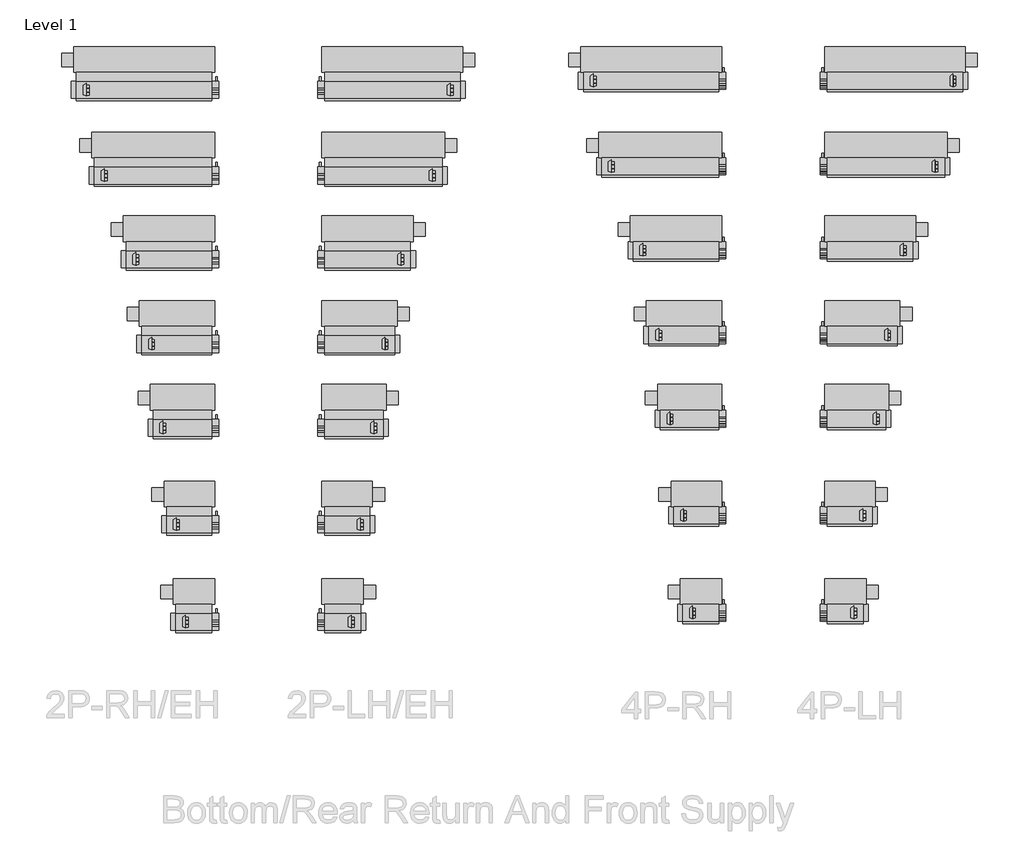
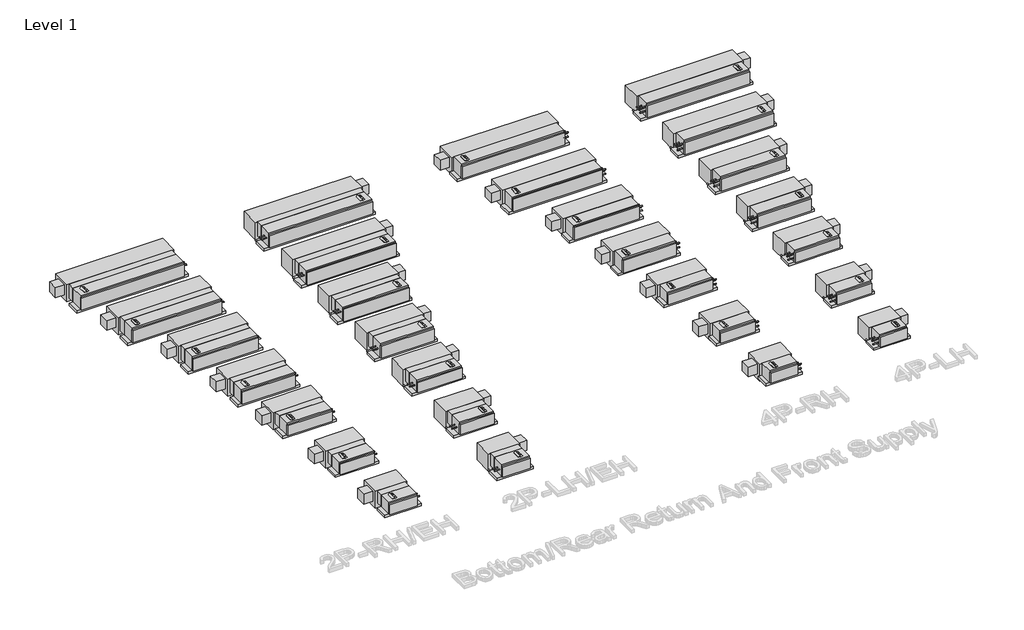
# One storey, part 1 of 3: 28 proxies.
"""IFC4 building model written with IfcOpenShell, lengths in millimetres."""

from ifc_helpers import new_model, si_unit, origin, place, context, project, spatial, transform, mapped, element, save
from components import mechanical_equipment_035db757, mechanical_equipment_09d55095, mechanical_equipment_ec8f8840, mechanical_equipment_d784f6c1, mechanical_equipment_0507619c, mechanical_equipment_2895ad52, mechanical_equipment_3fbe97c3, mechanical_equipment_b84d69dc, mechanical_equipment_30c2de15, mechanical_equipment_384acc31, mechanical_equipment_4620462e, mechanical_equipment_fb6a3015, mechanical_equipment_8496716b, mechanical_equipment_0d2534ca, mechanical_equipment_d7664b9c, mechanical_equipment_180d3f21, mechanical_equipment_aed2d3a6, mechanical_equipment_0631663f, mechanical_equipment_c43f2619, mechanical_equipment_cdbdb4ef, mechanical_equipment_cb384b61, mechanical_equipment_4876a667, mechanical_equipment_45491a60, mechanical_equipment_0cc6892a, mechanical_equipment_71cb244d, mechanical_equipment_a1824d72, mechanical_equipment_d58d46fc, mechanical_equipment_185d564b

model = new_model("IFC4")

# Units and contexts
model_context = context("Model", 3, world=origin())
ifc_project = project(units=[si_unit("LENGTHUNIT", "METRE", prefix="MILLI")], contexts=[model_context])

# Site, building, storey
site = spatial("IfcSite", under=ifc_project)
building = spatial("IfcBuilding", under=site)
storey = spatial("IfcBuildingStorey", under=building, Name="Level 1", Elevation=0.0)

# Proxies
placement = place(None, origin())
mechanical_equipment_shape = mechanical_equipment_035db757(model_context)
element("IfcBuildingElementProxy", 1, Name="Concealed_Horizontal_Fan_Coil_Unit_With_Plenum_-_CPY_-_IEC_-_2-Pipe_Cool-EHeat_RH_2022 : Size 02 - 277v/60Hz/1Ph - 4 Row 2.0kW", ObjectType="Concealed_Horizontal_Fan_Coil_Unit_With_Plenum_-_CPY_-_IEC_-_2-Pipe_Cool-EHeat_RH_2022 : Size 02 - 277v/60Hz/1Ph - 4 Row 2.0kW", at=placement, inside=storey, context=model_context, shape_type="MappedRepresentation", body=[
    mapped(mechanical_equipment_shape, transform((-17623.5400592, 2137.0905121, 0.0), x_axis=(1.0, 0.0, 0.0), y_axis=(0.0, 1.0, 0.0), z_axis=(0.0, 0.0, 1.0))),
])
mechanical_equipment_2_shape = mechanical_equipment_09d55095(model_context)
element("IfcBuildingElementProxy", 2, Name="Concealed_Horizontal_Fan_Coil_Unit_With_Plenum_-_CPY_-_IEC_-_2-Pipe_Cool-EHeat_RH_2022 : Size 03 - 277v/60Hz/1Ph - 4 Row 3.0kW", ObjectType="Concealed_Horizontal_Fan_Coil_Unit_With_Plenum_-_CPY_-_IEC_-_2-Pipe_Cool-EHeat_RH_2022 : Size 03 - 277v/60Hz/1Ph - 4 Row 3.0kW", at=placement, inside=storey, context=model_context, shape_type="MappedRepresentation", body=[
    mapped(mechanical_equipment_2_shape, transform((-17674.3400592, 3234.3867946, 0.0), x_axis=(1.0, 0.0, 0.0), y_axis=(0.0, 1.0, 0.0), z_axis=(0.0, 0.0, 1.0))),
])
mechanical_equipment_3_shape = mechanical_equipment_ec8f8840(model_context)
element("IfcBuildingElementProxy", 3, Name="Concealed_Horizontal_Fan_Coil_Unit_With_Plenum_-_CPY_-_IEC_-_2-Pipe_Cool-EHeat_RH_2022 : Size 04 - 277v/60Hz/1Ph - 4 Row 3.0kW", ObjectType="Concealed_Horizontal_Fan_Coil_Unit_With_Plenum_-_CPY_-_IEC_-_2-Pipe_Cool-EHeat_RH_2022 : Size 04 - 277v/60Hz/1Ph - 4 Row 3.0kW", at=placement, inside=storey, context=model_context, shape_type="MappedRepresentation", body=[
    mapped(mechanical_equipment_3_shape, transform((-17750.5400592, 4321.4279718, 0.0), x_axis=(1.0, 0.0, 0.0), y_axis=(0.0, 1.0, 0.0), z_axis=(0.0, 0.0, 1.0))),
])
mechanical_equipment_4_shape = mechanical_equipment_d784f6c1(model_context)
element("IfcBuildingElementProxy", 4, Name="Concealed_Horizontal_Fan_Coil_Unit_With_Plenum_-_CPY_-_IEC_-_2-Pipe_Cool-EHeat_RH_2022 : Size 06 - 277v/60Hz/1Ph - 4 Row 6.0kW", ObjectType="Concealed_Horizontal_Fan_Coil_Unit_With_Plenum_-_CPY_-_IEC_-_2-Pipe_Cool-EHeat_RH_2022 : Size 06 - 277v/60Hz/1Ph - 4 Row 6.0kW", at=placement, inside=storey, context=model_context, shape_type="MappedRepresentation", body=[
    mapped(mechanical_equipment_4_shape, transform((-17814.0400592, 5264.8976727, 0.0), x_axis=(1.0, 0.0, 0.0), y_axis=(0.0, 1.0, 0.0), z_axis=(0.0, 0.0, 1.0))),
])
mechanical_equipment_5_shape = mechanical_equipment_0507619c(model_context)
element("IfcBuildingElementProxy", 5, Name="Concealed_Horizontal_Fan_Coil_Unit_With_Plenum_-_CPY_-_IEC_-_2-Pipe_Cool-EHeat_RH_2022 : Size 08 - 277v/60Hz/1Ph - 4 Row 6.0kW", ObjectType="Concealed_Horizontal_Fan_Coil_Unit_With_Plenum_-_CPY_-_IEC_-_2-Pipe_Cool-EHeat_RH_2022 : Size 08 - 277v/60Hz/1Ph - 4 Row 6.0kW", at=placement, inside=storey, context=model_context, shape_type="MappedRepresentation", body=[
    mapped(mechanical_equipment_5_shape, transform((-17902.9400592, 6218.622479, 0.0), x_axis=(1.0, 0.0, 0.0), y_axis=(0.0, 1.0, 0.0), z_axis=(0.0, 0.0, 1.0))),
])
mechanical_equipment_6_shape = mechanical_equipment_2895ad52(model_context)
element("IfcBuildingElementProxy", 6, Name="Concealed_Horizontal_Fan_Coil_Unit_With_Plenum_-_CPY_-_IEC_-_2-Pipe_Cool-EHeat_RH_2022 : Size 10 - 277v/60Hz/1Ph - 4 Row 8.0kW", ObjectType="Concealed_Horizontal_Fan_Coil_Unit_With_Plenum_-_CPY_-_IEC_-_2-Pipe_Cool-EHeat_RH_2022 : Size 10 - 277v/60Hz/1Ph - 4 Row 8.0kW", at=placement, inside=storey, context=model_context, shape_type="MappedRepresentation", body=[
    mapped(mechanical_equipment_6_shape, transform((-18080.7400592, 7162.0921799, 0.0), x_axis=(1.0, 0.0, 0.0), y_axis=(0.0, 1.0, 0.0), z_axis=(0.0, 0.0, 1.0))),
])
mechanical_equipment_7_shape = mechanical_equipment_3fbe97c3(model_context)
element("IfcBuildingElementProxy", 7, Name="Concealed_Horizontal_Fan_Coil_Unit_With_Plenum_-_CPY_-_IEC_-_2-Pipe_Cool-EHeat_RH_2022 : Size 12 - 277v/60Hz/1Ph - 4 Row 10.0kW", ObjectType="Concealed_Horizontal_Fan_Coil_Unit_With_Plenum_-_CPY_-_IEC_-_2-Pipe_Cool-EHeat_RH_2022 : Size 12 - 277v/60Hz/1Ph - 4 Row 10.0kW", at=placement, inside=storey, context=model_context, shape_type="MappedRepresentation", body=[
    mapped(mechanical_equipment_7_shape, transform((-18182.3400592, 8125.1210373, 0.0), x_axis=(1.0, 0.0, 0.0), y_axis=(0.0, 1.0, 0.0), z_axis=(0.0, 0.0, 1.0))),
])
mechanical_equipment_8_shape = mechanical_equipment_b84d69dc(model_context)
element("IfcBuildingElementProxy", 8, Name="Concealed_Horizontal_Fan_Coil_Unit_With_Plenum_-_CPY_-_IEC_-_4-Pipe_RH_2022 : Size 02 - 277v/60Hz/1Ph - 4/1 Coil", ObjectType="Concealed_Horizontal_Fan_Coil_Unit_With_Plenum_-_CPY_-_IEC_-_4-Pipe_RH_2022 : Size 02 - 277v/60Hz/1Ph - 4/1 Coil", at=placement, inside=storey, context=model_context, shape_type="MappedRepresentation", body=[
    mapped(mechanical_equipment_8_shape, transform((-11916.0045416, 2238.6905121, 0.0), x_axis=(1.0, 0.0, 0.0), y_axis=(0.0, 1.0, 0.0), z_axis=(0.0, 0.0, 1.0))),
])
mechanical_equipment_9_shape = mechanical_equipment_30c2de15(model_context)
element("IfcBuildingElementProxy", 9, Name="Concealed_Horizontal_Fan_Coil_Unit_With_Plenum_-_CPY_-_IEC_-_4-Pipe_RH_2022 : Size 03 - 277v/60Hz/1Ph - 4/1 Coil", ObjectType="Concealed_Horizontal_Fan_Coil_Unit_With_Plenum_-_CPY_-_IEC_-_4-Pipe_RH_2022 : Size 03 - 277v/60Hz/1Ph - 4/1 Coil", at=placement, inside=storey, context=model_context, shape_type="MappedRepresentation", body=[
    mapped(mechanical_equipment_9_shape, transform((-11966.8045416, 3335.9867946, 0.0), x_axis=(1.0, 0.0, 0.0), y_axis=(0.0, 1.0, 0.0), z_axis=(0.0, 0.0, 1.0))),
])
mechanical_equipment_10_shape = mechanical_equipment_384acc31(model_context)
element("IfcBuildingElementProxy", 10, Name="Concealed_Horizontal_Fan_Coil_Unit_With_Plenum_-_CPY_-_IEC_-_4-Pipe_RH_2022 : Size 04 - 277v/60Hz/1Ph - 4/1 Coil", ObjectType="Concealed_Horizontal_Fan_Coil_Unit_With_Plenum_-_CPY_-_IEC_-_4-Pipe_RH_2022 : Size 04 - 277v/60Hz/1Ph - 4/1 Coil", at=placement, inside=storey, context=model_context, shape_type="MappedRepresentation", body=[
    mapped(mechanical_equipment_10_shape, transform((-12043.0045416, 4423.0279718, 0.0), x_axis=(1.0, 0.0, 0.0), y_axis=(0.0, 1.0, 0.0), z_axis=(0.0, 0.0, 1.0))),
])
mechanical_equipment_11_shape = mechanical_equipment_4620462e(model_context)
element("IfcBuildingElementProxy", 11, Name="Concealed_Horizontal_Fan_Coil_Unit_With_Plenum_-_CPY_-_IEC_-_4-Pipe_RH_2022 : Size 06 - 277v/60Hz/1Ph - 4/1 Coil", ObjectType="Concealed_Horizontal_Fan_Coil_Unit_With_Plenum_-_CPY_-_IEC_-_4-Pipe_RH_2022 : Size 06 - 277v/60Hz/1Ph - 4/1 Coil", at=placement, inside=storey, context=model_context, shape_type="MappedRepresentation", body=[
    mapped(mechanical_equipment_11_shape, transform((-12106.5045416, 5366.4976727, 0.0), x_axis=(1.0, 0.0, 0.0), y_axis=(0.0, 1.0, 0.0), z_axis=(0.0, 0.0, 1.0))),
])
mechanical_equipment_12_shape = mechanical_equipment_fb6a3015(model_context)
element("IfcBuildingElementProxy", 12, Name="Concealed_Horizontal_Fan_Coil_Unit_With_Plenum_-_CPY_-_IEC_-_4-Pipe_RH_2022 : Size 08 - 277v/60Hz/1Ph - 4/1 Coil", ObjectType="Concealed_Horizontal_Fan_Coil_Unit_With_Plenum_-_CPY_-_IEC_-_4-Pipe_RH_2022 : Size 08 - 277v/60Hz/1Ph - 4/1 Coil", at=placement, inside=storey, context=model_context, shape_type="MappedRepresentation", body=[
    mapped(mechanical_equipment_12_shape, transform((-12195.4045416, 6320.222479, 0.0), x_axis=(1.0, 0.0, 0.0), y_axis=(0.0, 1.0, 0.0), z_axis=(0.0, 0.0, 1.0))),
])
mechanical_equipment_13_shape = mechanical_equipment_8496716b(model_context)
element("IfcBuildingElementProxy", 13, Name="Concealed_Horizontal_Fan_Coil_Unit_With_Plenum_-_CPY_-_IEC_-_4-Pipe_RH_2022 : Size 10 - 277v/60Hz/1Ph - 4/1 Coil", ObjectType="Concealed_Horizontal_Fan_Coil_Unit_With_Plenum_-_CPY_-_IEC_-_4-Pipe_RH_2022 : Size 10 - 277v/60Hz/1Ph - 4/1 Coil", at=placement, inside=storey, context=model_context, shape_type="MappedRepresentation", body=[
    mapped(mechanical_equipment_13_shape, transform((-12373.2045416, 7263.6921799, 0.0), x_axis=(1.0, 0.0, 0.0), y_axis=(0.0, 1.0, 0.0), z_axis=(0.0, 0.0, 1.0))),
])
mechanical_equipment_14_shape = mechanical_equipment_0d2534ca(model_context)
element("IfcBuildingElementProxy", 14, Name="Concealed_Horizontal_Fan_Coil_Unit_With_Plenum_-_CPY_-_IEC_-_4-Pipe_RH_2022 : Size 12 - 277v/60Hz/1Ph - 4/1 Coil", ObjectType="Concealed_Horizontal_Fan_Coil_Unit_With_Plenum_-_CPY_-_IEC_-_4-Pipe_RH_2022 : Size 12 - 277v/60Hz/1Ph - 4/1 Coil", at=placement, inside=storey, context=model_context, shape_type="MappedRepresentation", body=[
    mapped(mechanical_equipment_14_shape, transform((-12474.8045416, 8226.7210373, 0.0), x_axis=(1.0, 0.0, 0.0), y_axis=(0.0, 1.0, 0.0), z_axis=(0.0, 0.0, 1.0))),
])
mechanical_equipment_15_shape = mechanical_equipment_d7664b9c(model_context)
element("IfcBuildingElementProxy", 15, Name="Concealed_Horizontal_Fan_Coil_Unit_With_Plenum_-_CPY_-_IEC_-_2-Pipe_Cool-EHeat_LH_2022 : Size 02 - 277v/60Hz/1Ph - 4 Row 2.0kW", ObjectType="Concealed_Horizontal_Fan_Coil_Unit_With_Plenum_-_CPY_-_IEC_-_2-Pipe_Cool-EHeat_LH_2022 : Size 02 - 277v/60Hz/1Ph - 4 Row 2.0kW", at=placement, inside=storey, context=model_context, shape_type="MappedRepresentation", body=[
    mapped(mechanical_equipment_15_shape, transform((-15947.1400592, 2137.0905121, 0.0), x_axis=(1.0, 0.0, 0.0), y_axis=(0.0, 1.0, 0.0), z_axis=(0.0, 0.0, 1.0))),
])
mechanical_equipment_16_shape = mechanical_equipment_180d3f21(model_context)
element("IfcBuildingElementProxy", 16, Name="Concealed_Horizontal_Fan_Coil_Unit_With_Plenum_-_CPY_-_IEC_-_2-Pipe_Cool-EHeat_LH_2022 : Size 03 - 277v/60Hz/1Ph - 4 Row 3.0kW", ObjectType="Concealed_Horizontal_Fan_Coil_Unit_With_Plenum_-_CPY_-_IEC_-_2-Pipe_Cool-EHeat_LH_2022 : Size 03 - 277v/60Hz/1Ph - 4 Row 3.0kW", at=placement, inside=storey, context=model_context, shape_type="MappedRepresentation", body=[
    mapped(mechanical_equipment_16_shape, transform((-15896.3400592, 3234.3867946, 0.0), x_axis=(1.0, 0.0, 0.0), y_axis=(0.0, 1.0, 0.0), z_axis=(0.0, 0.0, 1.0))),
])
mechanical_equipment_17_shape = mechanical_equipment_aed2d3a6(model_context)
element("IfcBuildingElementProxy", 17, Name="Concealed_Horizontal_Fan_Coil_Unit_With_Plenum_-_CPY_-_IEC_-_2-Pipe_Cool-EHeat_LH_2022 : Size 04 - 277v/60Hz/1Ph - 4 Row 3.0kW", ObjectType="Concealed_Horizontal_Fan_Coil_Unit_With_Plenum_-_CPY_-_IEC_-_2-Pipe_Cool-EHeat_LH_2022 : Size 04 - 277v/60Hz/1Ph - 4 Row 3.0kW", at=placement, inside=storey, context=model_context, shape_type="MappedRepresentation", body=[
    mapped(mechanical_equipment_17_shape, transform((-15820.1400592, 4321.4279718, 0.0), x_axis=(1.0, 0.0, 0.0), y_axis=(0.0, 1.0, 0.0), z_axis=(0.0, 0.0, 1.0))),
])
mechanical_equipment_18_shape = mechanical_equipment_0631663f(model_context)
element("IfcBuildingElementProxy", 18, Name="Concealed_Horizontal_Fan_Coil_Unit_With_Plenum_-_CPY_-_IEC_-_2-Pipe_Cool-EHeat_LH_2022 : Size 06 - 277v/60Hz/1Ph - 4 Row 6.0kW", ObjectType="Concealed_Horizontal_Fan_Coil_Unit_With_Plenum_-_CPY_-_IEC_-_2-Pipe_Cool-EHeat_LH_2022 : Size 06 - 277v/60Hz/1Ph - 4 Row 6.0kW", at=placement, inside=storey, context=model_context, shape_type="MappedRepresentation", body=[
    mapped(mechanical_equipment_18_shape, transform((-15756.6400592, 5264.8976727, 0.0), x_axis=(1.0, 0.0, 0.0), y_axis=(0.0, 1.0, 0.0), z_axis=(0.0, 0.0, 1.0))),
])
mechanical_equipment_19_shape = mechanical_equipment_c43f2619(model_context)
element("IfcBuildingElementProxy", 19, Name="Concealed_Horizontal_Fan_Coil_Unit_With_Plenum_-_CPY_-_IEC_-_2-Pipe_Cool-EHeat_LH_2022 : Size 08 - 277v/60Hz/1Ph - 4 Row 6.0kW", ObjectType="Concealed_Horizontal_Fan_Coil_Unit_With_Plenum_-_CPY_-_IEC_-_2-Pipe_Cool-EHeat_LH_2022 : Size 08 - 277v/60Hz/1Ph - 4 Row 6.0kW", at=placement, inside=storey, context=model_context, shape_type="MappedRepresentation", body=[
    mapped(mechanical_equipment_19_shape, transform((-15667.7400592, 6218.622479, 0.0), x_axis=(1.0, 0.0, 0.0), y_axis=(0.0, 1.0, 0.0), z_axis=(0.0, 0.0, 1.0))),
])
mechanical_equipment_20_shape = mechanical_equipment_cdbdb4ef(model_context)
element("IfcBuildingElementProxy", 20, Name="Concealed_Horizontal_Fan_Coil_Unit_With_Plenum_-_CPY_-_IEC_-_2-Pipe_Cool-EHeat_LH_2022 : Size 10 - 277v/60Hz/1Ph - 4 Row 8.0kW", ObjectType="Concealed_Horizontal_Fan_Coil_Unit_With_Plenum_-_CPY_-_IEC_-_2-Pipe_Cool-EHeat_LH_2022 : Size 10 - 277v/60Hz/1Ph - 4 Row 8.0kW", at=placement, inside=storey, context=model_context, shape_type="MappedRepresentation", body=[
    mapped(mechanical_equipment_20_shape, transform((-15489.9400592, 7162.0921799, 0.0), x_axis=(1.0, 0.0, 0.0), y_axis=(0.0, 1.0, 0.0), z_axis=(0.0, 0.0, 1.0))),
])
mechanical_equipment_21_shape = mechanical_equipment_cb384b61(model_context)
element("IfcBuildingElementProxy", 21, Name="Concealed_Horizontal_Fan_Coil_Unit_With_Plenum_-_CPY_-_IEC_-_2-Pipe_Cool-EHeat_LH_2022 : Size 12 - 277v/60Hz/1Ph - 4 Row 10.0kW", ObjectType="Concealed_Horizontal_Fan_Coil_Unit_With_Plenum_-_CPY_-_IEC_-_2-Pipe_Cool-EHeat_LH_2022 : Size 12 - 277v/60Hz/1Ph - 4 Row 10.0kW", at=placement, inside=storey, context=model_context, shape_type="MappedRepresentation", body=[
    mapped(mechanical_equipment_21_shape, transform((-15388.3400592, 8125.1210373, 0.0), x_axis=(1.0, 0.0, 0.0), y_axis=(0.0, 1.0, 0.0), z_axis=(0.0, 0.0, 1.0))),
])
mechanical_equipment_22_shape = mechanical_equipment_4876a667(model_context)
element("IfcBuildingElementProxy", 22, Name="Concealed_Horizontal_Fan_Coil_Unit_With_Plenum_-_CPY_-_IEC_-_4-Pipe_LH_2022 : Size 02 - 277v/60Hz/1Ph - 4/1 Coil", ObjectType="Concealed_Horizontal_Fan_Coil_Unit_With_Plenum_-_CPY_-_IEC_-_4-Pipe_LH_2022 : Size 02 - 277v/60Hz/1Ph - 4/1 Coil", at=placement, inside=storey, context=model_context, shape_type="MappedRepresentation", body=[
    mapped(mechanical_equipment_22_shape, transform((-10290.4045416, 2238.6905121, 0.0), x_axis=(1.0, 0.0, 0.0), y_axis=(0.0, 1.0, 0.0), z_axis=(0.0, 0.0, 1.0))),
])
mechanical_equipment_23_shape = mechanical_equipment_45491a60(model_context)
element("IfcBuildingElementProxy", 23, Name="Concealed_Horizontal_Fan_Coil_Unit_With_Plenum_-_CPY_-_IEC_-_4-Pipe_LH_2022 : Size 03 - 277v/60Hz/1Ph - 4/1 Coil", ObjectType="Concealed_Horizontal_Fan_Coil_Unit_With_Plenum_-_CPY_-_IEC_-_4-Pipe_LH_2022 : Size 03 - 277v/60Hz/1Ph - 4/1 Coil", at=placement, inside=storey, context=model_context, shape_type="MappedRepresentation", body=[
    mapped(mechanical_equipment_23_shape, transform((-10239.6045416, 3335.9867946, 0.0), x_axis=(1.0, 0.0, 0.0), y_axis=(0.0, 1.0, 0.0), z_axis=(0.0, 0.0, 1.0))),
])
mechanical_equipment_24_shape = mechanical_equipment_0cc6892a(model_context)
element("IfcBuildingElementProxy", 24, Name="Concealed_Horizontal_Fan_Coil_Unit_With_Plenum_-_CPY_-_IEC_-_4-Pipe_LH_2022 : Size 04 - 277v/60Hz/1Ph - 4/1 Coil", ObjectType="Concealed_Horizontal_Fan_Coil_Unit_With_Plenum_-_CPY_-_IEC_-_4-Pipe_LH_2022 : Size 04 - 277v/60Hz/1Ph - 4/1 Coil", at=placement, inside=storey, context=model_context, shape_type="MappedRepresentation", body=[
    mapped(mechanical_equipment_24_shape, transform((-10163.4045416, 4423.0279718, 0.0), x_axis=(1.0, 0.0, 0.0), y_axis=(0.0, 1.0, 0.0), z_axis=(0.0, 0.0, 1.0))),
])
mechanical_equipment_25_shape = mechanical_equipment_71cb244d(model_context)
element("IfcBuildingElementProxy", 25, Name="Concealed_Horizontal_Fan_Coil_Unit_With_Plenum_-_CPY_-_IEC_-_4-Pipe_LH_2022 : Size 06 - 277v/60Hz/1Ph - 4/1 Coil", ObjectType="Concealed_Horizontal_Fan_Coil_Unit_With_Plenum_-_CPY_-_IEC_-_4-Pipe_LH_2022 : Size 06 - 277v/60Hz/1Ph - 4/1 Coil", at=placement, inside=storey, context=model_context, shape_type="MappedRepresentation", body=[
    mapped(mechanical_equipment_25_shape, transform((-10099.9045416, 5366.4976727, 0.0), x_axis=(1.0, 0.0, 0.0), y_axis=(0.0, 1.0, 0.0), z_axis=(0.0, 0.0, 1.0))),
])
mechanical_equipment_26_shape = mechanical_equipment_a1824d72(model_context)
element("IfcBuildingElementProxy", 26, Name="Concealed_Horizontal_Fan_Coil_Unit_With_Plenum_-_CPY_-_IEC_-_4-Pipe_LH_2022 : Size 08 - 277v/60Hz/1Ph - 4/1 Coil", ObjectType="Concealed_Horizontal_Fan_Coil_Unit_With_Plenum_-_CPY_-_IEC_-_4-Pipe_LH_2022 : Size 08 - 277v/60Hz/1Ph - 4/1 Coil", at=placement, inside=storey, context=model_context, shape_type="MappedRepresentation", body=[
    mapped(mechanical_equipment_26_shape, transform((-10011.0045416, 6320.222479, 0.0), x_axis=(1.0, 0.0, 0.0), y_axis=(0.0, 1.0, 0.0), z_axis=(0.0, 0.0, 1.0))),
])
mechanical_equipment_27_shape = mechanical_equipment_d58d46fc(model_context)
element("IfcBuildingElementProxy", 27, Name="Concealed_Horizontal_Fan_Coil_Unit_With_Plenum_-_CPY_-_IEC_-_4-Pipe_LH_2022 : Size 10 - 277v/60Hz/1Ph - 4/1 Coil", ObjectType="Concealed_Horizontal_Fan_Coil_Unit_With_Plenum_-_CPY_-_IEC_-_4-Pipe_LH_2022 : Size 10 - 277v/60Hz/1Ph - 4/1 Coil", at=placement, inside=storey, context=model_context, shape_type="MappedRepresentation", body=[
    mapped(mechanical_equipment_27_shape, transform((-9833.2045416, 7263.6921799, 0.0), x_axis=(1.0, 0.0, 0.0), y_axis=(0.0, 1.0, 0.0), z_axis=(0.0, 0.0, 1.0))),
])
mechanical_equipment_28_shape = mechanical_equipment_185d564b(model_context)
element("IfcBuildingElementProxy", 28, Name="Concealed_Horizontal_Fan_Coil_Unit_With_Plenum_-_CPY_-_IEC_-_4-Pipe_LH_2022 : Size 12 - 277v/60Hz/1Ph - 4/1 Coil", ObjectType="Concealed_Horizontal_Fan_Coil_Unit_With_Plenum_-_CPY_-_IEC_-_4-Pipe_LH_2022 : Size 12 - 277v/60Hz/1Ph - 4/1 Coil", at=placement, inside=storey, context=model_context, shape_type="MappedRepresentation", body=[
    mapped(mechanical_equipment_28_shape, transform((-9731.6045416, 8226.7210373, 0.0), x_axis=(1.0, 0.0, 0.0), y_axis=(0.0, 1.0, 0.0), z_axis=(0.0, 0.0, 1.0))),
])

save(model, "model.ifc")
